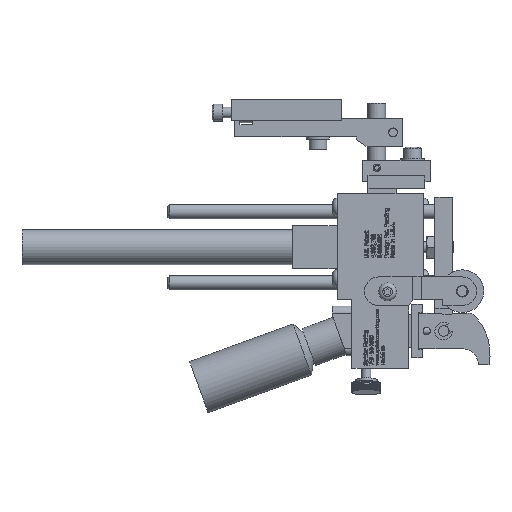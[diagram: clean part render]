
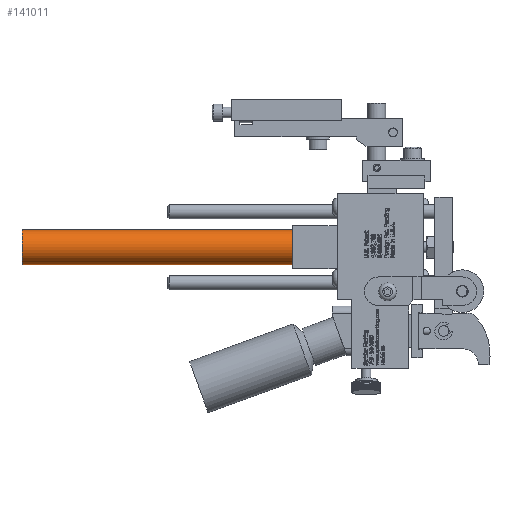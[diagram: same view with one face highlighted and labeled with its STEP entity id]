
A CAD part, top view. The second image highlights one B-rep face of the part: STEP entity #141011.
In plain terms, the highlighted cylindrical face has radius 7.747 mm (diameter 15.494 mm), a full revolution.
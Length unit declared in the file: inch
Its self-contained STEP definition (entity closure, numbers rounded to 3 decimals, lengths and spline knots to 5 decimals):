
#140984=CARTESIAN_POINT('',(0.2202,0.36387,0.375));
#140985=DIRECTION('',(1.0,0.,0.0));
#140986=DIRECTION('',(0.0,0.0,1.0));
#140987=AXIS2_PLACEMENT_3D('',#140984,#140985,#140986);
#140988=CYLINDRICAL_SURFACE('',#140987,0.305);
#140989=CARTESIAN_POINT('',(4.9702,0.36387,0.07));
#140990=VERTEX_POINT('',#140989);
#140991=CARTESIAN_POINT('',(4.9702,0.36387,0.375));
#140992=DIRECTION('',(-1.0,0.0,0.0));
#140993=DIRECTION('',(0.0,0.0,1.0));
#140994=AXIS2_PLACEMENT_3D('',#140991,#140992,#140993);
#140995=CIRCLE('',#140994,0.305);
#140996=EDGE_CURVE('',#140990,#140990,#140995,.T.);
#140997=ORIENTED_EDGE('',*,*,#140996,.T.);
#140998=EDGE_LOOP('',(#140997));
#140999=FACE_OUTER_BOUND('',#140998,.T.);
#141000=CARTESIAN_POINT('',(0.2202,0.36387,0.07));
#141001=VERTEX_POINT('',#141000);
#141002=CARTESIAN_POINT('',(0.2202,0.36387,0.375));
#141003=DIRECTION('',(-1.0,0.0,0.0));
#141004=DIRECTION('',(0.0,0.0,1.0));
#141005=AXIS2_PLACEMENT_3D('',#141002,#141003,#141004);
#141006=CIRCLE('',#141005,0.305);
#141007=EDGE_CURVE('',#141001,#141001,#141006,.T.);
#141008=ORIENTED_EDGE('',*,*,#141007,.F.);
#141009=EDGE_LOOP('',(#141008));
#141010=FACE_BOUND('',#141009,.T.);
#141011=ADVANCED_FACE('',(#140999,#141010),#140988,.T.);
